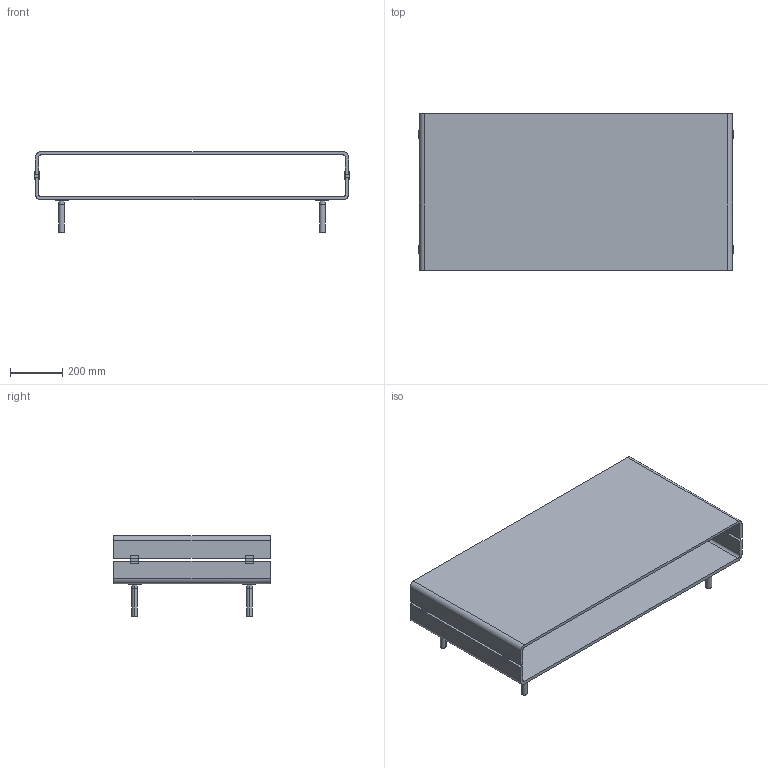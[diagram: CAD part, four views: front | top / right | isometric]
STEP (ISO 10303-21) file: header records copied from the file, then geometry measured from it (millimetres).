
FILE_DESCRIPTION(/* description */ (''),/* implementation_level */ '2;1');
FILE_NAME(/* name */ '203.320 - C&C 120x60 piedini',/* time_stamp */ '2010-11-04T09:50:28+01:00',/* author */ (''),/* organization */ (''),/* preprocessor_version */ 'ST-DEVELOPER v10',/* originating_system */ '',/* authorisation */ '');
FILE_SCHEMA (('CONFIG_CONTROL_DESIGN'));
Length unit declared in the file: centimetre
Products named in the file (1): 1
Bounding box: 1208 x 600 x 309 mm (x, y, z)
Volume: 19552227.3 mm3; surface area: 3377454.8 mm2
Topology: 14 solids, 14 shells, 168 faces, 404 edges, 268 vertices
Faces by surface type: plane 96, bspline 72
Entity records: 4952 total; most frequent: CARTESIAN_POINT 2282, ORIENTED_EDGE 808, EDGE_CURVE 404, VERTEX_POINT 268, B_SPLINE_CURVE_WITH_KNOTS 264, EDGE_LOOP 172, ADVANCED_FACE 168, FACE_OUTER_BOUND 168
